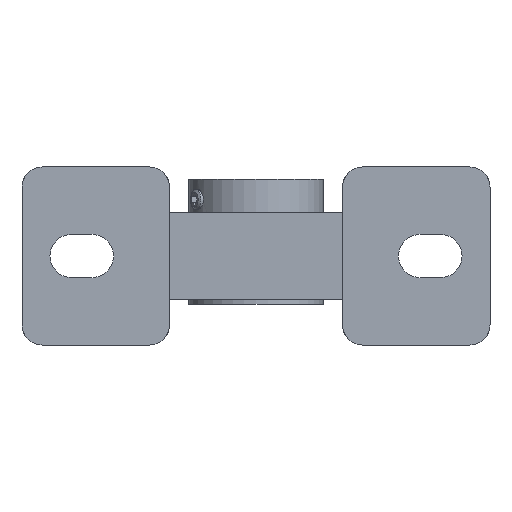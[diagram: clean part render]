
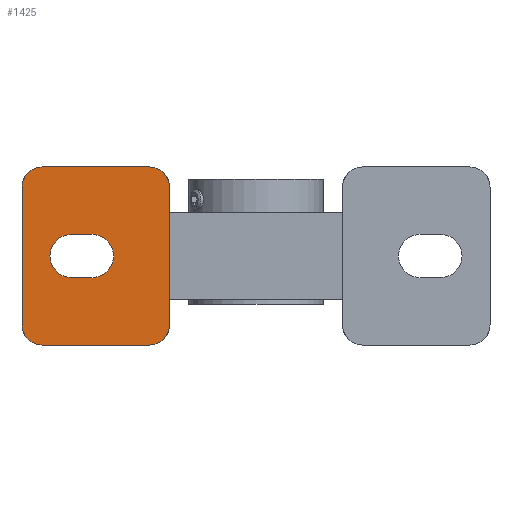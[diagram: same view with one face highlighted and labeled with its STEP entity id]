
A CAD part, front view. The second image highlights one B-rep face of the part: STEP entity #1425.
In plain terms, the highlighted planar face has unit normal (0, -1, 0).
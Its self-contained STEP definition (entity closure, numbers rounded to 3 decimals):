
#548=CARTESIAN_POINT('',(0.355,-61.095,-35.0));
#549=VERTEX_POINT('',#548);
#556=CARTESIAN_POINT('',(-41.645,-61.095,-35.0));
#557=VERTEX_POINT('',#556);
#558=CARTESIAN_POINT('',(0.355,-61.095,-35.0));
#559=DIRECTION('',(-1.0,0.0,0.0));
#560=VECTOR('',#559,42.);
#561=LINE('',#558,#560);
#562=EDGE_CURVE('',#549,#557,#561,.T.);
#1225=CARTESIAN_POINT('',(-49.645,-61.095,-27.0));
#1226=VERTEX_POINT('',#1225);
#1227=CARTESIAN_POINT('',(-41.645,-61.095,-27.0));
#1228=DIRECTION('',(0.0,1.0,0.0));
#1229=DIRECTION('',(-0.707,0.0,-0.707));
#1230=AXIS2_PLACEMENT_3D('',#1227,#1228,#1229);
#1231=CIRCLE('',#1230,8.0);
#1232=EDGE_CURVE('',#557,#1226,#1231,.T.);
#1283=CARTESIAN_POINT('',(-49.645,-61.095,27.0));
#1284=VERTEX_POINT('',#1283);
#1291=CARTESIAN_POINT('',(-41.645,-61.095,35.0));
#1292=VERTEX_POINT('',#1291);
#1293=CARTESIAN_POINT('',(-41.645,-61.095,27.0));
#1294=DIRECTION('',(0.0,1.0,0.0));
#1295=DIRECTION('',(-0.707,0.0,0.707));
#1296=AXIS2_PLACEMENT_3D('',#1293,#1294,#1295);
#1297=CIRCLE('',#1296,8.);
#1298=EDGE_CURVE('',#1284,#1292,#1297,.T.);
#1315=CARTESIAN_POINT('',(0.355,-61.095,35.0));
#1316=VERTEX_POINT('',#1315);
#1317=CARTESIAN_POINT('',(-41.645,-61.095,35.0));
#1318=DIRECTION('',(1.0,0.0,0.0));
#1319=VECTOR('',#1318,42.);
#1320=LINE('',#1317,#1319);
#1321=EDGE_CURVE('',#1292,#1316,#1320,.T.);
#1348=CARTESIAN_POINT('',(42.355,-61.095,0.0));
#1349=DIRECTION('',(0.0,-1.0,0.0));
#1350=DIRECTION('',(0.0,0.0,-1.0));
#1351=AXIS2_PLACEMENT_3D('',#1348,#1349,#1350);
#1352=PLANE('',#1351);
#1353=ORIENTED_EDGE('',*,*,#1232,.F.);
#1354=ORIENTED_EDGE('',*,*,#562,.F.);
#1355=CARTESIAN_POINT('',(8.355,-61.095,-27.));
#1356=VERTEX_POINT('',#1355);
#1357=CARTESIAN_POINT('',(0.355,-61.095,-27.0));
#1358=DIRECTION('',(0.0,1.0,0.0));
#1359=DIRECTION('',(0.707,0.0,-0.707));
#1360=AXIS2_PLACEMENT_3D('',#1357,#1358,#1359);
#1361=CIRCLE('',#1360,8.0);
#1362=EDGE_CURVE('',#1356,#549,#1361,.T.);
#1363=ORIENTED_EDGE('',*,*,#1362,.F.);
#1364=CARTESIAN_POINT('',(8.355,-61.095,27.));
#1365=VERTEX_POINT('',#1364);
#1366=CARTESIAN_POINT('',(8.355,-61.095,27.));
#1367=DIRECTION('',(0.0,0.0,-1.0));
#1368=VECTOR('',#1367,54.0);
#1369=LINE('',#1366,#1368);
#1370=EDGE_CURVE('',#1365,#1356,#1369,.T.);
#1371=ORIENTED_EDGE('',*,*,#1370,.F.);
#1372=CARTESIAN_POINT('',(0.355,-61.095,27.0));
#1373=DIRECTION('',(0.0,1.0,0.0));
#1374=DIRECTION('',(0.707,0.0,0.707));
#1375=AXIS2_PLACEMENT_3D('',#1372,#1373,#1374);
#1376=CIRCLE('',#1375,8.0);
#1377=EDGE_CURVE('',#1316,#1365,#1376,.T.);
#1378=ORIENTED_EDGE('',*,*,#1377,.F.);
#1379=ORIENTED_EDGE('',*,*,#1321,.F.);
#1380=ORIENTED_EDGE('',*,*,#1298,.F.);
#1381=CARTESIAN_POINT('',(-49.645,-61.095,-27.0));
#1382=DIRECTION('',(0.0,0.0,1.0));
#1383=VECTOR('',#1382,54.0);
#1384=LINE('',#1381,#1383);
#1385=EDGE_CURVE('',#1226,#1284,#1384,.T.);
#1386=ORIENTED_EDGE('',*,*,#1385,.F.);
#1387=EDGE_LOOP('',(#1353,#1354,#1363,#1371,#1378,#1379,#1380,#1386));
#1388=FACE_OUTER_BOUND('',#1387,.T.);
#1389=CARTESIAN_POINT('',(-30.145,-61.095,-8.5));
#1390=VERTEX_POINT('',#1389);
#1391=CARTESIAN_POINT('',(-22.145,-61.095,-8.5));
#1392=VERTEX_POINT('',#1391);
#1393=CARTESIAN_POINT('',(-30.145,-61.095,-8.5));
#1394=DIRECTION('',(1.0,0.0,0.0));
#1395=VECTOR('',#1394,8.);
#1396=LINE('',#1393,#1395);
#1397=EDGE_CURVE('',#1390,#1392,#1396,.T.);
#1398=ORIENTED_EDGE('',*,*,#1397,.F.);
#1399=CARTESIAN_POINT('',(-30.145,-61.095,8.5));
#1400=VERTEX_POINT('',#1399);
#1401=CARTESIAN_POINT('',(-30.145,-61.095,0.));
#1402=DIRECTION('',(0.0,-1.0,0.0));
#1403=DIRECTION('',(0.0,0.0,1.0));
#1404=AXIS2_PLACEMENT_3D('',#1401,#1402,#1403);
#1405=CIRCLE('',#1404,8.5);
#1406=EDGE_CURVE('',#1400,#1390,#1405,.T.);
#1407=ORIENTED_EDGE('',*,*,#1406,.F.);
#1408=CARTESIAN_POINT('',(-22.145,-61.095,8.5));
#1409=VERTEX_POINT('',#1408);
#1410=CARTESIAN_POINT('',(-22.145,-61.095,8.5));
#1411=DIRECTION('',(-1.0,0.0,0.0));
#1412=VECTOR('',#1411,8.);
#1413=LINE('',#1410,#1412);
#1414=EDGE_CURVE('',#1409,#1400,#1413,.T.);
#1415=ORIENTED_EDGE('',*,*,#1414,.F.);
#1416=CARTESIAN_POINT('',(-22.145,-61.095,0.0));
#1417=DIRECTION('',(0.0,-1.0,0.0));
#1418=DIRECTION('',(0.0,0.0,-1.0));
#1419=AXIS2_PLACEMENT_3D('',#1416,#1417,#1418);
#1420=CIRCLE('',#1419,8.5);
#1421=EDGE_CURVE('',#1392,#1409,#1420,.T.);
#1422=ORIENTED_EDGE('',*,*,#1421,.F.);
#1423=EDGE_LOOP('',(#1398,#1407,#1415,#1422));
#1424=FACE_BOUND('',#1423,.T.);
#1425=ADVANCED_FACE('',(#1388,#1424),#1352,.T.);
